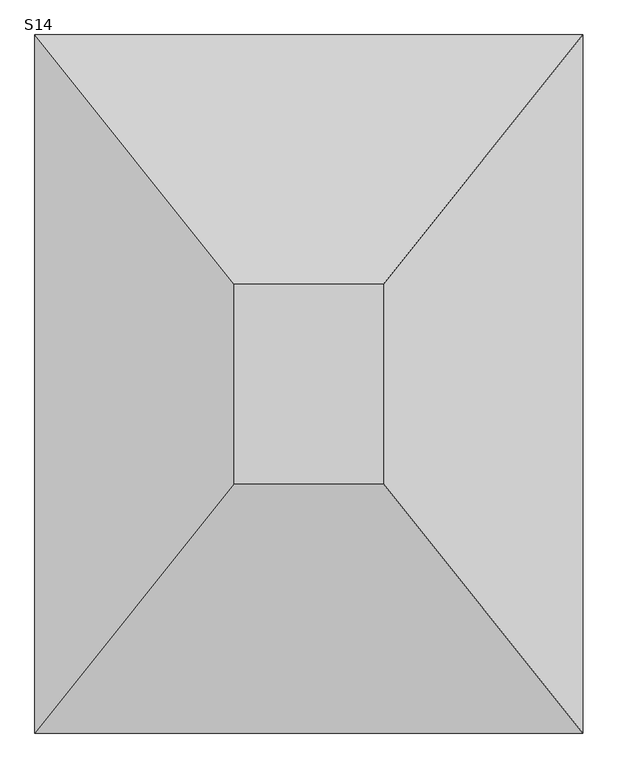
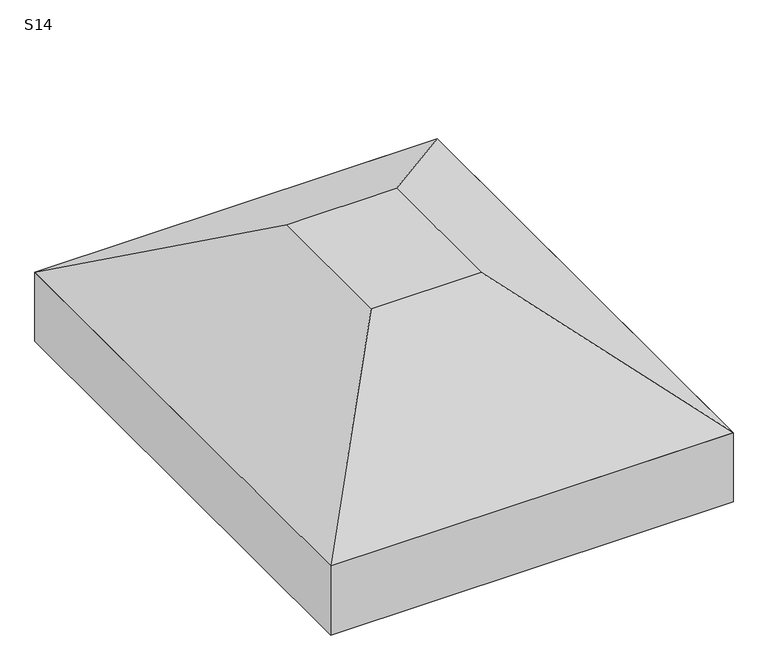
"""IFC4 building model written with IfcOpenShell, lengths in millimetres: fastener geometry, TQS - Sapata : S14."""

from ifc_helpers import new_model, si_unit, frame, origin, place, context, project, spatial, polyline, outline, extrude, faceted_brep, source, transform, mapped, element, save


def s14_5397d16a(model_context):
    return source(origin(), model_context, "Body", "SolidModel", [
        faceted_brep([(-50.0, 0.0, 0.0), (-350.0, 0.0, 0.0), (-350.0, -400.0, 0.0), (-50.0, -400.0, 0.0), (350.0, 500.0, -300.0), (350.0, -900.0, -300.0), (-750.0, -900.0, -300.0), (-750.0, 500.0, -300.0)], [[[0, 1, 2, 3]], [[4, 5, 6, 7]], [[4, 7, 1, 0]], [[7, 6, 2, 1]], [[6, 5, 3, 2]], [[5, 4, 0, 3]]]),
        extrude(outline(polyline([(350.0, 500.0), (350.0, -900.0), (-750.0, -900.0), (-750.0, 500.0), (350.0, 500.0)])), frame((0.0, 0.0, -500.0), z_axis=(0.0, 0.0, 1.0), x_axis=(1.0, 0.0, 0.0)), (0.0, 0.0, 1.0), 200.0),
    ])


if __name__ == "__main__":
    model = new_model("IFC4")
    model_context = context("Model", 3, world=origin())
    ifc_project = project(units=[si_unit("LENGTHUNIT", "METRE", prefix="MILLI")], contexts=[model_context])
    site = spatial("IfcSite", under=ifc_project)
    building = spatial("IfcBuilding", under=site)
    placement = place(None, origin())
    s14_shape = s14_5397d16a(model_context)
    element("IfcFastener", 1, ObjectType="TQS - Sapata : S14", at=placement, inside=building, context=model_context, shape_type="MappedRepresentation", body=[
        mapped(s14_shape, transform((0.0, 0.0, 0.0), x_axis=(1.0, 0.0, 0.0), y_axis=(0.0, 1.0, 0.0), z_axis=(0.0, 0.0, 1.0))),
    ])
    save(model, "model.ifc")
